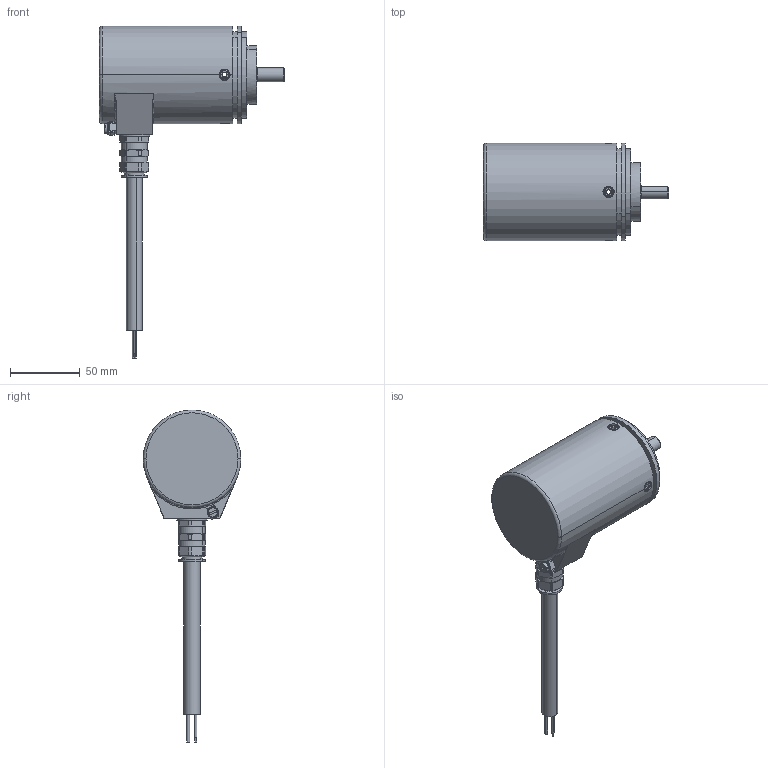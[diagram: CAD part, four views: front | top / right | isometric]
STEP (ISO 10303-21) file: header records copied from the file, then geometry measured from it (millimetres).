
FILE_DESCRIPTION (( 'STEP AP214' ), '1' );
FILE_NAME ('8.7063.1222.XXXX.STEP', '2011-01-27T12:58:26', ( 'admin' ), ( 'Fritz Kübler GmbH' ), 'SwSTEP 2.0', 'SolidWorks 2009', '' );
FILE_SCHEMA (( 'AUTOMOTIVE_DESIGN' ));
Length unit declared in the file: millimetre
Products named in the file (1): 8.7063.1222.XXXX
Bounding box: 132.7 x 70 x 238.1 mm (x, y, z)
Surface area: 47757.1 mm2 (no closed solid volume)
Topology: 0 solids, 22 shells, 311 faces, 797 edges, 510 vertices
Faces by surface type: cylinder 129, plane 124, cone 35, torus 19, bspline 4
Entity records: 13222 total; most frequent: CARTESIAN_POINT 2261, DIRECTION 1650, ORIENTED_EDGE 1423, EDGE_CURVE 793, AXIS2_PLACEMENT_3D 627, VERTEX_POINT 510, LINE 396, VECTOR 396
